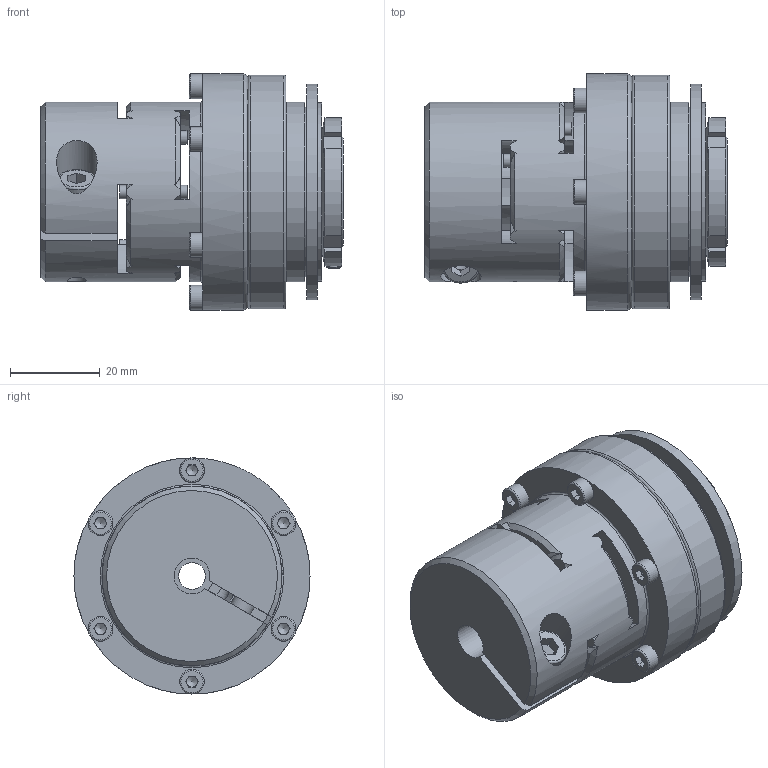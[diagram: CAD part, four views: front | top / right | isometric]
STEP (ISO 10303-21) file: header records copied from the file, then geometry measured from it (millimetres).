
FILE_DESCRIPTION( ( 'Unknown' ), '1' );
FILE_NAME( 'F:/JAKOB-STEP+IGES-Dateien/STEP-Dateien/SKW-EK/SKW-EK 12.stp', 'Unknown', ( 'Unknown' ), ( 'Unknown' ), 'PSStep 10.1', 'Unknown', ' ' );
FILE_SCHEMA( ( 'AUTOMOTIVE_DESIGN { 1 0 10303 214 1 1 1 1 }' ) );
Length unit declared in the file: millimetre
Products named in the file (1): SKW 12
Bounding box: 67.2 x 52.5 x 52.5 mm (x, y, z)
Volume: 82575.5 mm3; surface area: 33292.4 mm2
Topology: 1 solids, 11 shells, 445 faces, 1203 edges, 769 vertices
Faces by surface type: plane 199, cylinder 126, cone 64, torus 46, sphere 10
Full cylindrical faces by diameter (mm): 1.5 x2, 2.5 x8, 3 x13, 3.4 x6, 4.2 x1, 5 x1, 5.4 x1, 5.5 x6, 6 x1, 8.5 x1, 9 x1, 9.5 x1, 18 x2, 19 x1, 19.9 x1, 20 x2, 24 x1, 25 x2, 25.2 x1, 27.2 x2, 35.1 x2, 37.9 x2, 39.6 x1, 40 x2, 42 x3, 48 x1, 52 x1, 52.5 x1
Entity records: 17750 total; most frequent: CARTESIAN_POINT 3877, DIRECTION 2160, ORIENTED_EDGE 2000, EDGE_CURVE 1000, AXIS2_PLACEMENT_3D 900, VERTEX_POINT 693, EDGE_LOOP 627, FACE_OUTER_BOUND 528
